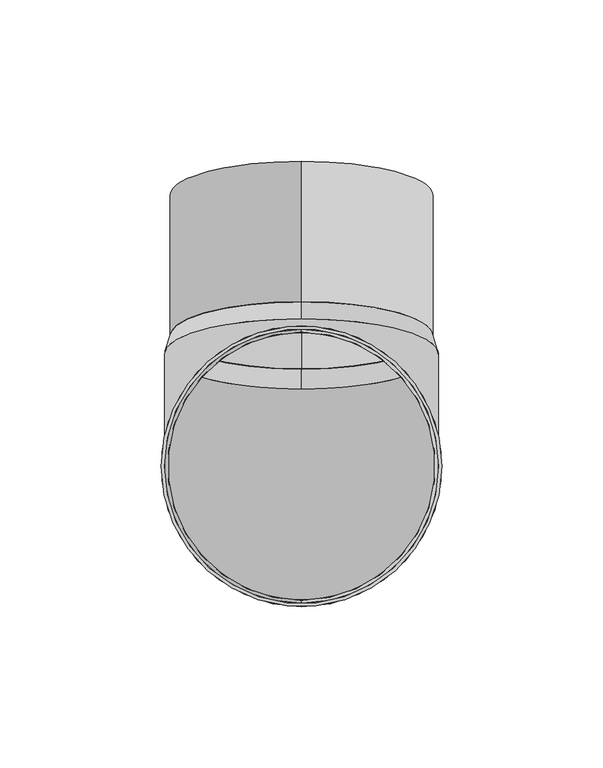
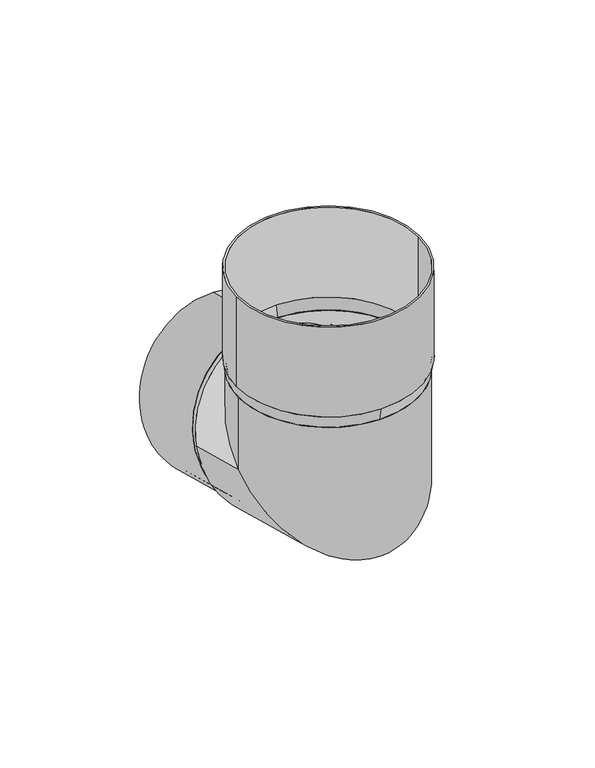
"""IFC4 building model written with IfcOpenShell, lengths in millimetres: proxy geometry, GROVIK_Downpipe_Knee : N85_75°_Down."""

from ifc_helpers import new_model, si_unit, point, frame, origin, origin_with_axes, origin_2d, place, context, project, spatial, polyline, circle_curve, ellipse_curve, trimmed, segment, composite_curve, outline, extrude, source, transform, mapped, element, save
from ifc_brep_helpers import plane_surface, cylinder_surface, revolved_surface, advanced_brep


def generic_models_0d9bd9e9(model_context):
    return source(origin(), model_context, "Body", "SolidModel", [
        extrude(outline(composite_curve([segment(trimmed(circle_curve(origin_2d(), 43.5), [point((-43.5, 0.0))], [point((43.5, 0.0))], False, "CARTESIAN"), True, "CONTINUOUS"), segment(trimmed(circle_curve(origin_2d(), 43.5), [point((43.5, 0.0))], [point((-43.5, 0.0))], False, "CARTESIAN"), True, "CONTINUOUS")], self_intersect=False), holes=[composite_curve([segment(trimmed(circle_curve(origin_2d(), 42.5), [point((-42.5, 0.0))], [point((42.5, 0.0))], True, "CARTESIAN"), True, "CONTINUOUS"), segment(trimmed(circle_curve(origin_2d(), 42.5), [point((42.5, 0.0))], [point((-42.5, 0.0))], True, "CARTESIAN"), True, "CONTINUOUS")], self_intersect=False)]), frame((0.0, 0.0, 6.0), z_axis=(0.0, 0.0, 1.0), x_axis=(1.0, 0.0, 0.0)), (0.0, 0.0, 1.0), 45.0),
        advanced_brep(
        [(-42.5, 0.0, 0.0), (42.5, 0.0, 0.0), (-41.5, 0.0, 0.0), (41.5, 0.0, 0.0), (-41.5, 0.0, -35.9), (41.5, 0.0, -35.9), (-42.5, 0.0, -35.9), (42.5, 0.0, -35.9), (-42.5, 34.6767372, -45.1916037), (42.5, 34.6767372, -45.1916037), (-41.5, 34.6767372, -45.1916037), (41.5, 34.6767372, -45.1916037)],
        [
            (0, 1, circle_curve(origin_with_axes(), 42.5)),
            (1, 0, circle_curve(origin_with_axes(), 42.5)),
            (2, 3, circle_curve(frame((0.0, 0.0, 0.0), z_axis=(0.0, 0.0, -1.0), x_axis=(1.0, 0.0, 0.0)), 41.5)),
            (3, 2, circle_curve(frame((0.0, 0.0, 0.0), z_axis=(0.0, 0.0, -1.0), x_axis=(1.0, 0.0, 0.0)), 41.5)),
            (2, 4),
            (4, 5, ellipse_curve(frame((0.0, 0.0, -35.9), z_axis=(0.0, 0.6087614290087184, -0.7933533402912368), x_axis=(0.0, -0.7933533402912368, -0.6087614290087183)), 52.3096052, 41.5)),
            (5, 3),
            (5, 4, ellipse_curve(frame((0.0, 0.0, -35.9), z_axis=(0.0, 0.6087614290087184, -0.7933533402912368), x_axis=(0.0, -0.7933533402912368, -0.6087614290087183)), 52.3096052, 41.5)),
            (0, 6),
            (6, 7, ellipse_curve(frame((0.0, 0.0, -35.9), z_axis=(0.0, -0.6087614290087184, 0.7933533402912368), x_axis=(0.0, 0.7933533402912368, 0.6087614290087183)), 53.5700776, 42.5)),
            (7, 1),
            (7, 6, ellipse_curve(frame((0.0, 0.0, -35.9), z_axis=(0.0, -0.6087614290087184, 0.7933533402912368), x_axis=(0.0, 0.7933533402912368, 0.6087614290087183)), 53.5700776, 42.5)),
            (8, 9, circle_curve(frame((0.0, 34.6767372, -45.1916037), z_axis=(0.0, 0.9659258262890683, -0.2588190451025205), x_axis=(1.0, 0.0, 0.0)), 42.5)),
            (9, 8, circle_curve(frame((0.0, 34.6767372, -45.1916037), z_axis=(0.0, 0.9659258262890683, -0.2588190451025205), x_axis=(1.0, 0.0, 0.0)), 42.5)),
            (10, 11, circle_curve(frame((0.0, 34.6767372, -45.1916037), z_axis=(0.0, -0.9659258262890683, 0.2588190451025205), x_axis=(1.0, 0.0, 0.0)), 41.5)),
            (11, 10, circle_curve(frame((0.0, 34.6767372, -45.1916037), z_axis=(0.0, -0.9659258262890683, 0.2588190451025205), x_axis=(1.0, 0.0, 0.0)), 41.5)),
            (4, 10),
            (11, 5),
            (6, 8),
            (9, 7),
        ],
        [
            plane_surface(origin_with_axes()),
            revolved_surface(polyline([(41.5, 0.0, -67.74407001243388), (41.5, 0.0, 0.0)]), (0.0, 0.0, 0.0), (0.0, 0.0, -1.0)),
            cylinder_surface(origin_with_axes(), 42.5),
            plane_surface(frame((0.0, 34.6767372, -45.1916037), z_axis=(0.0, 0.9659258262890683, -0.2588190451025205), x_axis=(1.0, 0.0, 0.0))),
            revolved_surface(polyline([(41.5, 34.67673719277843, -45.19160372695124), (41.5, -30.75900963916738, -27.658148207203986)]), (0.0, 0.0, -35.9), (0.0, 0.9659258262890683, -0.2588190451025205)),
            cylinder_surface(frame((0.0, 0.0, -35.9), z_axis=(0.0, -0.9659258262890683, 0.2588190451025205), x_axis=(1.0, 0.0, 0.0)), 42.5),
        ],
        [
            (0, [[1, 2], [3, 4]]),
            (1, [[-3, 5, 6, 7]]),
            (1, [[-4, -7, 8, -5]]),
            (2, [[-1, 9, 10, 11]]),
            (2, [[-2, -11, 12, -9]]),
            (3, [[13, 14], [15, 16]]),
            (4, [[-6, 17, -16, 18]]),
            (4, [[-8, -18, -15, -17]]),
            (5, [[-10, 19, -14, 20]]),
            (5, [[-12, -20, -13, -19]]),
        ],
    ),
        extrude(outline(composite_curve([segment(trimmed(circle_curve(origin_2d(), 40.7), [point((0.0, 40.7))], [point((0.0, -40.7))], False, "CARTESIAN"), True, "CONTINUOUS"), segment(trimmed(circle_curve(origin_2d(), 40.7), [point((0.0, -40.7))], [point((0.0, 40.7))], False, "CARTESIAN"), True, "CONTINUOUS")], self_intersect=False), holes=[composite_curve([segment(trimmed(circle_curve(origin_2d(), 39.7), [point((0.0, 39.7))], [point((0.0, -39.7))], True, "CARTESIAN"), True, "CONTINUOUS"), segment(trimmed(circle_curve(origin_2d(), 39.7), [point((0.0, -39.7))], [point((0.0, 39.7))], True, "CARTESIAN"), True, "CONTINUOUS")], self_intersect=False)]), frame((0.0, 83.9389543, -58.391375), z_axis=(0.0, -0.9659258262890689, 0.2588190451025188), x_axis=(1.0, 0.0, 0.0)), (0.0, 0.0, 1.0), 45.0),
        advanced_brep(
        [(0.0, 43.5, 6.0), (0.0, -43.5, 6.0), (0.0, 42.5, 6.0), (0.0, -42.5, 6.0), (0.0, 42.5, 0.0), (0.0, -42.5, 0.0), (0.0, -41.5, 0.0), (0.0, 41.5, 0.0)],
        [
            (0, 1, circle_curve(frame((0.0, 0.0, 6.0), z_axis=(0.0, 0.0, 1.0), x_axis=(0.0, 1.0, 0.0)), 43.5)),
            (1, 0, circle_curve(frame((0.0, 0.0, 6.0), z_axis=(0.0, 0.0, 1.0), x_axis=(0.0, -1.0, 0.0)), 43.5)),
            (2, 3, circle_curve(frame((0.0, 0.0, 6.0), z_axis=(0.0, 0.0, -1.0), x_axis=(0.0, -1.0, 0.0)), 42.5)),
            (3, 2, circle_curve(frame((0.0, 0.0, 6.0), z_axis=(0.0, 0.0, -1.0), x_axis=(0.0, 1.0, 0.0)), 42.5)),
            (4, 5, circle_curve(frame((0.0, 0.0, 0.0), z_axis=(0.0, 0.0, -1.0), x_axis=(0.0, -1.0, 0.0)), 42.5)),
            (5, 4, circle_curve(frame((0.0, 0.0, 0.0), z_axis=(0.0, 0.0, -1.0), x_axis=(0.0, 1.0, 0.0)), 42.5)),
            (6, 7, circle_curve(frame((0.0, 0.0, 0.0), z_axis=(0.0, 0.0, 1.0), x_axis=(0.0, -1.0, 0.0)), 41.5)),
            (7, 6, circle_curve(frame((0.0, 0.0, 0.0), z_axis=(0.0, 0.0, 1.0), x_axis=(0.0, 1.0, 0.0)), 41.5)),
            (1, 5),
            (4, 0),
            (6, 3),
            (2, 7),
        ],
        [
            plane_surface(frame((0.0, 0.0, 6.0), z_axis=(0.0, 0.0, 1.0), x_axis=(-1.0, 0.0, 0.0))),
            plane_surface(frame((0.0, 0.0, 0.0), z_axis=(0.0, 0.0, -1.0), x_axis=(-1.0, 0.0, 0.0))),
            revolved_surface(polyline([(0.0, 42.5, 0.0), (0.0, 43.5, 6.0)]), (0.0, 0.0, -255.0), (0.0, 0.0, 1.0)),
            revolved_surface(polyline([(0.0, -42.5, 0.0), (0.0, -43.5, 6.0)]), (0.0, 0.0, -255.0), (0.0, 0.0, 1.0)),
            revolved_surface(polyline([(0.0, -42.5, 6.0), (0.0, -41.5, 0.0)]), (0.0, 0.0, -249.0), (0.0, 0.0, 1.0)),
        ],
        [
            (0, [[1, 2], [3, 4]]),
            (1, [[5, 6], [7, 8]]),
            (2, [[-2, 9, -5, 10]]),
            (3, [[-1, -10, -6, -9]]),
            (4, [[11, -3, 12, -7]]),
            (4, [[-11, -8, -12, -4]]),
        ],
    ),
        advanced_brep(
        [(0.0, 29.938357, -86.0576991), (0.0, 51.0062273, -7.4313369), (0.0, 30.197176, -85.0917733), (0.0, 50.7474082, -8.3972627), (0.0, 23.6769277, -86.2434513), (0.0, 45.6765466, -4.1397561), (0.0, 45.4177275, -5.1056819), (0.0, 23.9357468, -85.2775255)],
        [
            (0, 1, circle_curve(frame((0.0, 40.4722921, -46.744518), z_axis=(0.0, 0.9659258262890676, -0.2588190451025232), x_axis=(0.0, -0.25881904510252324, -0.9659258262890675)), 40.7)),
            (1, 0, circle_curve(frame((0.0, 40.4722921, -46.744518), z_axis=(0.0, 0.9659258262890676, -0.2588190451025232), x_axis=(0.0, 0.2588190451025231, 0.9659258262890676)), 40.7)),
            (2, 3, circle_curve(frame((0.0, 40.4722921, -46.744518), z_axis=(0.0, -0.965925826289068, 0.2588190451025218), x_axis=(0.0, 0.2588190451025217, 0.965925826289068)), 39.7)),
            (3, 2, circle_curve(frame((0.0, 40.4722921, -46.744518), z_axis=(0.0, -0.965925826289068, 0.2588190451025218), x_axis=(0.0, -0.2588190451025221, -0.965925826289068)), 39.7)),
            (4, 5, circle_curve(frame((0.0, 34.6767372, -45.1916037), z_axis=(0.0, -0.9659258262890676, 0.2588190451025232), x_axis=(0.0, 0.2588190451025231, 0.9659258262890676)), 42.5)),
            (5, 4, circle_curve(frame((0.0, 34.6767372, -45.1916037), z_axis=(0.0, -0.9659258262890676, 0.2588190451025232), x_axis=(0.0, -0.25881904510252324, -0.9659258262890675)), 42.5)),
            (6, 7, circle_curve(frame((0.0, 34.6767372, -45.1916037), z_axis=(0.0, 0.965925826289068, -0.2588190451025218), x_axis=(0.0, 0.2588190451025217, 0.965925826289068)), 41.5)),
            (7, 6, circle_curve(frame((0.0, 34.6767372, -45.1916037), z_axis=(0.0, 0.965925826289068, -0.2588190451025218), x_axis=(0.0, -0.2588190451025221, -0.965925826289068)), 41.5)),
            (1, 5),
            (4, 0),
            (6, 3),
            (2, 7),
        ],
        [
            plane_surface(frame((0.0, 40.4722921, -46.744518), z_axis=(0.0, 0.9659258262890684, -0.2588190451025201), x_axis=(-1.0, 0.0, 0.0))),
            plane_surface(frame((0.0, 34.6767372, -45.1916037), z_axis=(0.0, -0.9659258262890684, 0.2588190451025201), x_axis=(-1.0, 0.0, 0.0))),
            revolved_surface(polyline([(0.0, 51.00622730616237, -7.431336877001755), (0.0, 45.67654653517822, -4.13975605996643)]), (0.0, 171.5162292, -81.8576351), (0.0, -0.9659258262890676, 0.2588190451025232)),
            revolved_surface(polyline([(0.0, 29.938357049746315, -86.05769908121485), (0.0, 23.676927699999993, -86.2434513)]), (0.0, 171.5162292, -81.8576351), (0.0, -0.9659258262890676, 0.2588190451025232)),
            revolved_surface(polyline([(0.0, 45.4177275, -5.105681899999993), (0.0, 50.74740820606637, -8.397262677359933)]), (0.0, 168.2964765, -80.994905), (0.0, -0.965925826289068, 0.2588190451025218)),
        ],
        [
            (0, [[1, 2], [3, 4]]),
            (1, [[5, 6], [7, 8]]),
            (2, [[-2, 9, -5, 10]]),
            (3, [[-1, -10, -6, -9]]),
            (4, [[11, -3, 12, -7]]),
            (4, [[-11, -8, -12, -4]]),
        ],
    ),
    ])


if __name__ == "__main__":
    model = new_model("IFC4")
    model_context = context("Model", 3, world=origin())
    ifc_project = project(units=[si_unit("LENGTHUNIT", "METRE", prefix="MILLI")], contexts=[model_context])
    site = spatial("IfcSite", under=ifc_project)
    building = spatial("IfcBuilding", under=site)
    placement = place(None, origin())
    generic_models_shape = generic_models_0d9bd9e9(model_context)
    element("IfcBuildingElementProxy", 1, Name="GROVIK_Downpipe_Knee : N85_75°_Down", ObjectType="GROVIK_Downpipe_Knee : N85_75°_Down", at=placement, inside=building, context=model_context, shape_type="MappedRepresentation", body=[
        mapped(generic_models_shape, transform((0.0, 0.0, 0.0), x_axis=(1.0, 0.0, 0.0), y_axis=(0.0, 1.0, 0.0), z_axis=(0.0, 0.0, 1.0))),
    ])
    save(model, "model.ifc")
